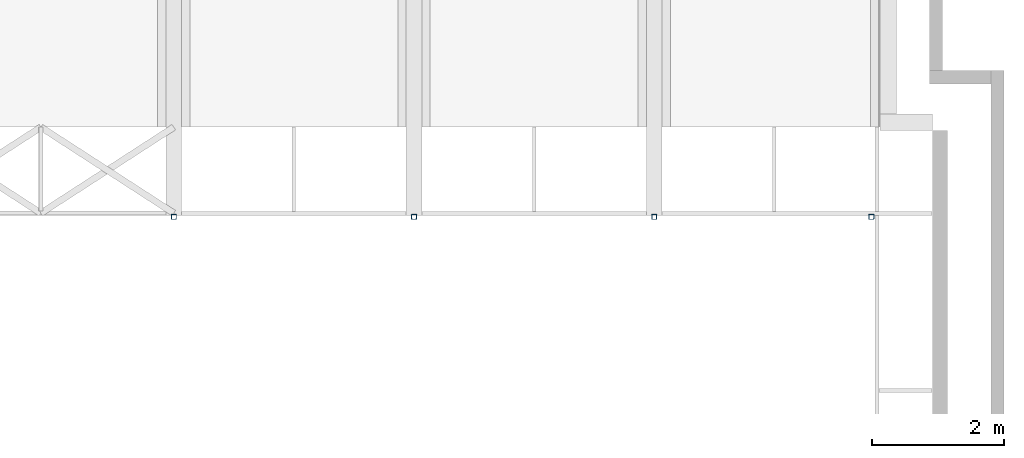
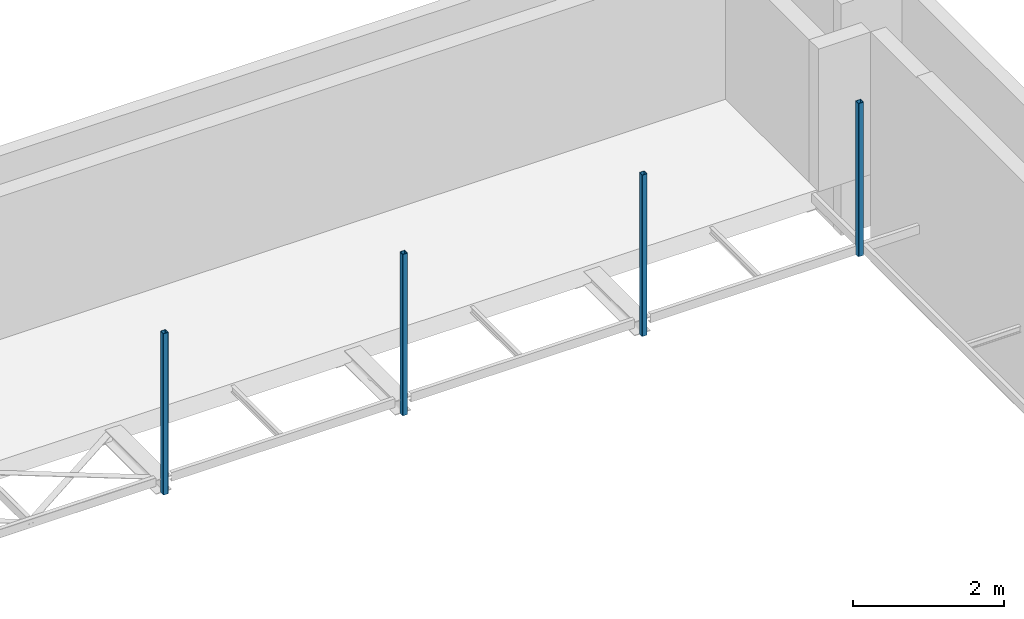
# One storey, part 9 of 68: 4 columns.
"""IFC2X3 building model written with IfcOpenShell, lengths in millimetres."""

from ifc_helpers import new_model, entity, si_unit, converted_unit, derived_unit, direction, frame, frame_2d, origin, place, context, subcontext, project, spatial, polyline, circle_curve, parameter, trimmed, segment, composite_curve, outline, extrude, source, transform, mapped, material, type_object, type_shapes, element, save


model = new_model("IFC2X3")

# Units and contexts
model_context = context("Model", 3, precision=0.01, world=origin(), true_north=direction((6.12303176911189e-17, 1.0)))
body_context = subcontext(model_context, "Body", "Model", "MODEL_VIEW")
ifc_project = project(units=[si_unit("LENGTHUNIT", "METRE", prefix="MILLI"), si_unit("AREAUNIT", "SQUARE_METRE", prefix="MILLI"), si_unit("VOLUMEUNIT", "CUBIC_METRE"), converted_unit("PLANEANGLEUNIT", "DEGREE", entity("IfcRatioMeasure", 0.0174532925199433), si_unit("PLANEANGLEUNIT", "RADIAN"), dimensions=[0, 0, 0, 0, 0, 0, 0]), si_unit("MASSUNIT", "GRAM", prefix="KILO"), derived_unit("MASSDENSITYUNIT", [(si_unit("MASSUNIT", "GRAM", prefix="KILO"), 1), (si_unit("LENGTHUNIT", "METRE"), -3)]), derived_unit("MOMENTOFINERTIAUNIT", [(si_unit("LENGTHUNIT", "METRE"), 4)]), si_unit("TIMEUNIT", "SECOND"), si_unit("FREQUENCYUNIT", "HERTZ"), si_unit("THERMODYNAMICTEMPERATUREUNIT", "DEGREE_CELSIUS"), derived_unit("THERMALTRANSMITTANCEUNIT", [(si_unit("MASSUNIT", "GRAM", prefix="KILO"), 1), (si_unit("THERMODYNAMICTEMPERATUREUNIT", "KELVIN"), -1), (si_unit("TIMEUNIT", "SECOND"), -3)]), derived_unit("VOLUMETRICFLOWRATEUNIT", [(si_unit("LENGTHUNIT", "METRE"), 3), (si_unit("TIMEUNIT", "SECOND"), -1)]), si_unit("ELECTRICCURRENTUNIT", "AMPERE"), si_unit("ELECTRICVOLTAGEUNIT", "VOLT"), si_unit("POWERUNIT", "WATT"), si_unit("FORCEUNIT", "NEWTON", prefix="KILO"), si_unit("ILLUMINANCEUNIT", "LUX"), si_unit("LUMINOUSFLUXUNIT", "LUMEN"), si_unit("LUMINOUSINTENSITYUNIT", "CANDELA"), derived_unit("USERDEFINED", [(si_unit("MASSUNIT", "GRAM", prefix="KILO"), -1), (si_unit("LENGTHUNIT", "METRE"), -2), (si_unit("TIMEUNIT", "SECOND"), 3), (si_unit("LUMINOUSFLUXUNIT", "LUMEN"), 1)]), derived_unit("LINEARVELOCITYUNIT", [(si_unit("LENGTHUNIT", "METRE"), 1), (si_unit("TIMEUNIT", "SECOND"), -1)]), si_unit("PRESSUREUNIT", "PASCAL"), derived_unit("USERDEFINED", [(si_unit("LENGTHUNIT", "METRE"), -2), (si_unit("MASSUNIT", "GRAM", prefix="KILO"), 1), (si_unit("TIMEUNIT", "SECOND"), -2)]), derived_unit("LINEARFORCEUNIT", [(si_unit("MASSUNIT", "GRAM", prefix="KILO"), 1), (si_unit("LENGTHUNIT", "METRE"), 1), (si_unit("TIMEUNIT", "SECOND"), -2), (si_unit("LENGTHUNIT", "METRE"), -1)]), derived_unit("PLANARFORCEUNIT", [(si_unit("MASSUNIT", "GRAM", prefix="KILO"), 1), (si_unit("LENGTHUNIT", "METRE"), 1), (si_unit("TIMEUNIT", "SECOND"), -2), (si_unit("LENGTHUNIT", "METRE"), -2)])], contexts=[model_context])

# Site, building, storey
site_placement = place(None, origin())
site = spatial("IfcSite", under=ifc_project, at=site_placement, Name="Theater aan de Parade", CompositionType="ELEMENT")
building_placement = place(site_placement, origin())
building = spatial("IfcBuilding", under=site, at=building_placement, Name="Theater aan de Parade", CompositionType="ELEMENT")
storey_placement = place(building_placement, frame((0.0, 0.0, 8750.0)))
storey = spatial("IfcBuildingStorey", under=building, at=storey_placement, Name="02 tweede verdieping", CompositionType="ELEMENT", Elevation=8750.0)

# Columns
ifc_material = material(Name="00_PBT_MAT_staal_S355")
column_type_1 = type_object("IfcColumnType", Name="28_PBT_SC_staal_koker:S355_K80x80x6.3", PredefinedType="COLUMN", material=ifc_material)
shared_shape_1 = source(origin(), body_context, "Body", "SweptSolid", [
    extrude(outline(composite_curve([segment(polyline([(-30.5500000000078, -40.0), (30.549999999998, -40.0)]), True, "CONTINUOUS"), segment(trimmed(circle_curve(frame_2d((30.5499999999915, -30.5499999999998), x_axis=(0.0, 1.0)), 9.45), [parameter(180.0)], [parameter(270.0)], True, "PARAMETER"), True, "CONTINUOUS"), segment(polyline([(40.0, -30.5500000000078), (40.0, 30.5499999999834)]), True, "CONTINUOUS"), segment(trimmed(circle_curve(frame_2d((30.5499999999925, 30.5499999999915), x_axis=(0.0, 1.0)), 9.45), [parameter(270.0)], [parameter(360.0)], True, "PARAMETER"), True, "CONTINUOUS"), segment(polyline([(30.5500000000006, 40.0), (-30.549999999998, 40.0)]), True, "CONTINUOUS"), segment(trimmed(circle_curve(frame_2d((-30.5499999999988, 30.5499999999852), x_axis=(0.0, 1.0)), 9.45), [parameter(360.0)], [parameter(90.0000000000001)], True, "PARAMETER"), True, "CONTINUOUS"), segment(polyline([(-40.0, 30.5499999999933), (-40.0, -30.5500000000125)]), True, "CONTINUOUS"), segment(trimmed(circle_curve(frame_2d((-30.5499999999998, -30.550000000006), x_axis=(0.0, 1.0)), 9.45), [parameter(89.9999999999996)], [parameter(180.0)], True, "PARAMETER"), True, "CONTINUOUS")], self_intersect=False), holes=[composite_curve([segment(polyline([(33.7000000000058, 27.3999999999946), (33.6999999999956, -27.4000000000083)]), True, "CONTINUOUS"), segment(trimmed(circle_curve(frame_2d((27.3999999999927, -27.4000000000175), x_axis=(0.0, 1.0)), 6.3), [parameter(180.0)], [parameter(270.0)], True, "PARAMETER"), False, "CONTINUOUS"), segment(polyline([(27.3999999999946, -33.7000000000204), (-27.4000000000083, -33.7000000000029)]), True, "CONTINUOUS"), segment(trimmed(circle_curve(frame_2d((-27.4000000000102, -27.4), x_axis=(0.0, 1.0)), 6.3), [parameter(90.0)], [parameter(180.0)], True, "PARAMETER"), False, "CONTINUOUS"), segment(polyline([(-33.7000000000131, -27.4000000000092), (-33.6999999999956, 27.3999999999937)]), True, "CONTINUOUS"), segment(trimmed(circle_curve(frame_2d((-27.4, 27.4000000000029), x_axis=(0.0, 1.0)), 6.3), [parameter(3.56222124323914e-13)], [parameter(90.0000000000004)], True, "PARAMETER"), False, "CONTINUOUS"), segment(polyline([(-27.4000000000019, 33.6999999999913), (27.400000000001, 33.6999999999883)]), True, "CONTINUOUS"), segment(trimmed(circle_curve(frame_2d((27.4000000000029, 27.3999999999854), x_axis=(0.0, 1.0)), 6.3), [parameter(270.0)], [parameter(0.0)], True, "PARAMETER"), False, "CONTINUOUS")], self_intersect=False)]), frame((75571.2707440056, 45049.99644175, 9760.0), z_axis=(0.0, 0.0, 1.0), x_axis=(0.0, 1.0, 0.0)), (0.0, 0.0, 1.0), 2600.0),
])
type_shapes(column_type_1, [shared_shape_1])
column_1_placement = place(storey_placement, frame((0.0, 0.0, -8750.0)))
element("IfcColumn", 1, at=column_1_placement, inside=storey, type_object=column_type_1, material=ifc_material, Name="28_PBT_SC_staal_koker:S355_K80x80x6.3", ObjectType="28_PBT_SC_staal_koker:S355_K80x80x6.3", context=body_context, shape_type="MappedRepresentation", body=[
    mapped(shared_shape_1, transform((0.0, 0.0, 0.0), scale=1.0)),
])
column_type_2 = type_object("IfcColumnType", Name="28_PBT_SC_staal_koker:S355_K80x80x6.3", PredefinedType="COLUMN", material=ifc_material)
shared_shape_2 = source(origin(), body_context, "Body", "SweptSolid", [
    extrude(outline(composite_curve([segment(polyline([(-30.5500000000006, -40.0), (30.549999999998, -40.0)]), True, "CONTINUOUS"), segment(trimmed(circle_curve(frame_2d((30.5499999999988, -30.5499999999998), x_axis=(0.0, 1.0)), 9.45), [parameter(180.0)], [parameter(270.0)], True, "PARAMETER"), True, "CONTINUOUS"), segment(polyline([(40.0, -30.5500000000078), (40.0, 30.5499999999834)]), True, "CONTINUOUS"), segment(trimmed(circle_curve(frame_2d((30.5499999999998, 30.5499999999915), x_axis=(0.0, 1.0)), 9.45), [parameter(270.0)], [parameter(360.0)], True, "PARAMETER"), True, "CONTINUOUS"), segment(polyline([(30.5500000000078, 40.0), (-30.549999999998, 40.0)]), True, "CONTINUOUS"), segment(trimmed(circle_curve(frame_2d((-30.5499999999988, 30.5500000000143), x_axis=(0.0, 1.0)), 9.45), [parameter(360.0)], [parameter(90.0000000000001)], True, "PARAMETER"), True, "CONTINUOUS"), segment(polyline([(-40.0, 30.5499999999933), (-40.0, -30.549999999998)]), True, "CONTINUOUS"), segment(trimmed(circle_curve(frame_2d((-30.5499999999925, -30.5499999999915), x_axis=(0.0, 1.0)), 9.45), [parameter(89.9999999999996)], [parameter(180.0)], True, "PARAMETER"), True, "CONTINUOUS")], self_intersect=False), holes=[composite_curve([segment(polyline([(33.7000000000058, 27.3999999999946), (33.6999999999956, -27.4000000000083)]), True, "CONTINUOUS"), segment(trimmed(circle_curve(frame_2d((27.4, -27.4000000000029), x_axis=(0.0, 1.0)), 6.3), [parameter(180.0)], [parameter(270.0)], True, "PARAMETER"), False, "CONTINUOUS"), segment(polyline([(27.4000000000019, -33.7000000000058), (-27.400000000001, -33.7000000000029)]), True, "CONTINUOUS"), segment(trimmed(circle_curve(frame_2d((-27.4000000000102, -27.4), x_axis=(0.0, 1.0)), 6.3), [parameter(90.0)], [parameter(180.0)], True, "PARAMETER"), False, "CONTINUOUS"), segment(polyline([(-33.7000000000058, -27.4000000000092), (-33.6999999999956, 27.3999999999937)]), True, "CONTINUOUS"), segment(trimmed(circle_curve(frame_2d((-27.3999999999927, 27.4000000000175), x_axis=(0.0, 1.0)), 6.3), [parameter(3.56222124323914e-13)], [parameter(90.0000000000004)], True, "PARAMETER"), False, "CONTINUOUS"), segment(polyline([(-27.4000000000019, 33.7000000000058), (27.4000000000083, 33.6999999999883)]), True, "CONTINUOUS"), segment(trimmed(circle_curve(frame_2d((27.4000000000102, 27.4), x_axis=(0.0, 1.0)), 6.3), [parameter(270.0)], [parameter(0.0)], True, "PARAMETER"), False, "CONTINUOUS")], self_intersect=False)]), frame((79221.2707440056, 45049.99644175, 9760.0), z_axis=(0.0, 0.0, 1.0), x_axis=(0.0, 1.0, 0.0)), (0.0, 0.0, 1.0), 2600.0),
])
type_shapes(column_type_2, [shared_shape_2])
column_2_placement = place(storey_placement, frame((0.0, 0.0, -8750.0)))
element("IfcColumn", 2, at=column_2_placement, inside=storey, type_object=column_type_2, material=ifc_material, Name="28_PBT_SC_staal_koker:S355_K80x80x6.3", ObjectType="28_PBT_SC_staal_koker:S355_K80x80x6.3", context=body_context, shape_type="MappedRepresentation", body=[
    mapped(shared_shape_2, transform((0.0, 0.0, 0.0), scale=1.0)),
])
column_type_3 = type_object("IfcColumnType", Name="28_PBT_SC_staal_koker:S355_K80x80x6.3", PredefinedType="COLUMN", material=ifc_material)
shared_shape_3 = source(origin(), body_context, "Body", "SweptSolid", [
    extrude(outline(composite_curve([segment(polyline([(-30.5500000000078, -40.0), (30.549999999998, -40.0)]), True, "CONTINUOUS"), segment(trimmed(circle_curve(frame_2d((30.5499999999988, -30.5499999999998), x_axis=(0.0, 1.0)), 9.45), [parameter(180.0)], [parameter(270.0)], True, "PARAMETER"), True, "CONTINUOUS"), segment(polyline([(40.0, -30.5500000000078), (40.0, 30.5499999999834)]), True, "CONTINUOUS"), segment(trimmed(circle_curve(frame_2d((30.5499999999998, 30.5499999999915), x_axis=(0.0, 1.0)), 9.45), [parameter(270.0)], [parameter(360.0)], True, "PARAMETER"), True, "CONTINUOUS"), segment(polyline([(30.5500000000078, 40.0), (-30.549999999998, 40.0)]), True, "CONTINUOUS"), segment(trimmed(circle_curve(frame_2d((-30.5499999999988, 30.5500000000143), x_axis=(0.0, 1.0)), 9.45), [parameter(360.0)], [parameter(90.0000000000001)], True, "PARAMETER"), True, "CONTINUOUS"), segment(polyline([(-40.0, 30.5499999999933), (-40.0, -30.549999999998)]), True, "CONTINUOUS"), segment(trimmed(circle_curve(frame_2d((-30.5499999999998, -30.5499999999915), x_axis=(0.0, 1.0)), 9.45), [parameter(89.9999999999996)], [parameter(180.0)], True, "PARAMETER"), True, "CONTINUOUS")], self_intersect=False), holes=[composite_curve([segment(polyline([(33.7000000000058, 27.3999999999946), (33.6999999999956, -27.4000000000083)]), True, "CONTINUOUS"), segment(trimmed(circle_curve(frame_2d((27.4, -27.4000000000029), x_axis=(0.0, 1.0)), 6.3), [parameter(180.0)], [parameter(270.0)], True, "PARAMETER"), False, "CONTINUOUS"), segment(polyline([(27.4000000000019, -33.7000000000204), (-27.4000000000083, -33.7000000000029)]), True, "CONTINUOUS"), segment(trimmed(circle_curve(frame_2d((-27.4000000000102, -27.4), x_axis=(0.0, 1.0)), 6.3), [parameter(90.0)], [parameter(180.0)], True, "PARAMETER"), False, "CONTINUOUS"), segment(polyline([(-33.7000000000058, -27.4000000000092), (-33.6999999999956, 27.3999999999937)]), True, "CONTINUOUS"), segment(trimmed(circle_curve(frame_2d((-27.4, 27.4000000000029), x_axis=(0.0, 1.0)), 6.3), [parameter(3.56222124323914e-13)], [parameter(90.0000000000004)], True, "PARAMETER"), False, "CONTINUOUS"), segment(polyline([(-27.4000000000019, 33.7000000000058), (27.4000000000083, 33.6999999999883)]), True, "CONTINUOUS"), segment(trimmed(circle_curve(frame_2d((27.4000000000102, 27.4), x_axis=(0.0, 1.0)), 6.3), [parameter(270.0)], [parameter(0.0)], True, "PARAMETER"), False, "CONTINUOUS")], self_intersect=False)]), frame((82871.2707440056, 45049.99644175, 9760.0), z_axis=(0.0, 0.0, 1.0), x_axis=(0.0, 1.0, 0.0)), (0.0, 0.0, 1.0), 2600.0),
])
type_shapes(column_type_3, [shared_shape_3])
column_3_placement = place(storey_placement, frame((0.0, 0.0, -8750.0)))
element("IfcColumn", 3, at=column_3_placement, inside=storey, type_object=column_type_3, material=ifc_material, Name="28_PBT_SC_staal_koker:S355_K80x80x6.3", ObjectType="28_PBT_SC_staal_koker:S355_K80x80x6.3", context=body_context, shape_type="MappedRepresentation", body=[
    mapped(shared_shape_3, transform((0.0, 0.0, 0.0), scale=1.0)),
])
column_type_4 = type_object("IfcColumnType", Name="28_PBT_SC_staal_koker:S355_K80x80x6.3", PredefinedType="COLUMN", material=ifc_material)
shared_shape_4 = source(origin(), body_context, "Body", "SweptSolid", [
    extrude(outline(composite_curve([segment(polyline([(-30.5500000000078, -40.0), (30.549999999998, -40.0)]), True, "CONTINUOUS"), segment(trimmed(circle_curve(frame_2d((30.5499999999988, -30.5499999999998), x_axis=(0.0, 1.0)), 9.45), [parameter(180.0)], [parameter(270.0)], True, "PARAMETER"), True, "CONTINUOUS"), segment(polyline([(40.0, -30.5500000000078), (40.0, 30.549999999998)]), True, "CONTINUOUS"), segment(trimmed(circle_curve(frame_2d((30.5499999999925, 30.550000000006), x_axis=(0.0, 1.0)), 9.45), [parameter(270.0)], [parameter(360.0)], True, "PARAMETER"), True, "CONTINUOUS"), segment(polyline([(30.5500000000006, 40.0), (-30.549999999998, 40.0)]), True, "CONTINUOUS"), segment(trimmed(circle_curve(frame_2d((-30.5499999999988, 30.5500000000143), x_axis=(0.0, 1.0)), 9.45), [parameter(360.0)], [parameter(90.0000000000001)], True, "PARAMETER"), True, "CONTINUOUS"), segment(polyline([(-40.0, 30.5500000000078), (-40.0, -30.5499999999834)]), True, "CONTINUOUS"), segment(trimmed(circle_curve(frame_2d((-30.5499999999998, -30.5499999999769), x_axis=(0.0, 1.0)), 9.45), [parameter(89.9999999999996)], [parameter(180.0)], True, "PARAMETER"), True, "CONTINUOUS")], self_intersect=False), holes=[composite_curve([segment(polyline([(33.7000000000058, 27.4000000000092), (33.6999999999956, -27.4000000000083)]), True, "CONTINUOUS"), segment(trimmed(circle_curve(frame_2d((27.3999999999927, -27.4000000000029), x_axis=(0.0, 1.0)), 6.3), [parameter(180.0)], [parameter(270.0)], True, "PARAMETER"), False, "CONTINUOUS"), segment(polyline([(27.4000000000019, -33.7000000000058), (-27.4000000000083, -33.6999999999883)]), True, "CONTINUOUS"), segment(trimmed(circle_curve(frame_2d((-27.4000000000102, -27.3999999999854), x_axis=(0.0, 1.0)), 6.3), [parameter(90.0)], [parameter(180.0)], True, "PARAMETER"), False, "CONTINUOUS"), segment(polyline([(-33.7000000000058, -27.3999999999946), (-33.6999999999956, 27.4000000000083)]), True, "CONTINUOUS"), segment(trimmed(circle_curve(frame_2d((-27.4, 27.4000000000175), x_axis=(0.0, 1.0)), 6.3), [parameter(3.56222124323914e-13)], [parameter(90.0000000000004)], True, "PARAMETER"), False, "CONTINUOUS"), segment(polyline([(-27.4000000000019, 33.7000000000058), (27.400000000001, 33.7000000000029)]), True, "CONTINUOUS"), segment(trimmed(circle_curve(frame_2d((27.4000000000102, 27.4000000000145), x_axis=(0.0, 1.0)), 6.3), [parameter(270.0)], [parameter(0.0)], True, "PARAMETER"), False, "CONTINUOUS")], self_intersect=False)]), frame((86171.0688810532, 45049.99644175, 9890.0), z_axis=(0.0, 0.0, 1.0), x_axis=(0.0, 1.0, 0.0)), (0.0, 0.0, 1.0), 2470.0),
])
type_shapes(column_type_4, [shared_shape_4])
column_4_placement = place(storey_placement, frame((0.0, 0.0, -8750.0)))
element("IfcColumn", 4, at=column_4_placement, inside=storey, type_object=column_type_4, material=ifc_material, Name="28_PBT_SC_staal_koker:S355_K80x80x6.3", ObjectType="28_PBT_SC_staal_koker:S355_K80x80x6.3", context=body_context, shape_type="MappedRepresentation", body=[
    mapped(shared_shape_4, transform((0.0, 0.0, 0.0), scale=1.0)),
])

save(model, "model.ifc")
